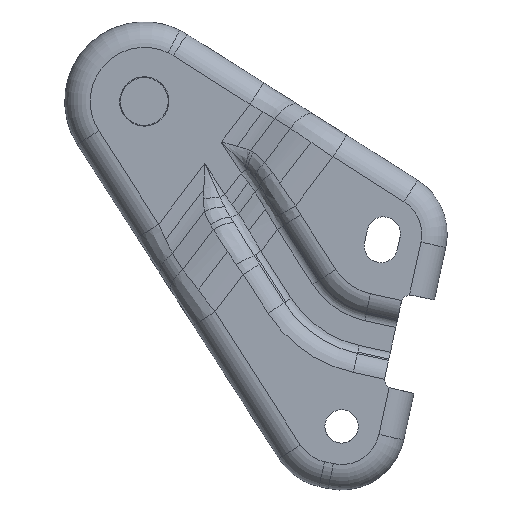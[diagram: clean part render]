
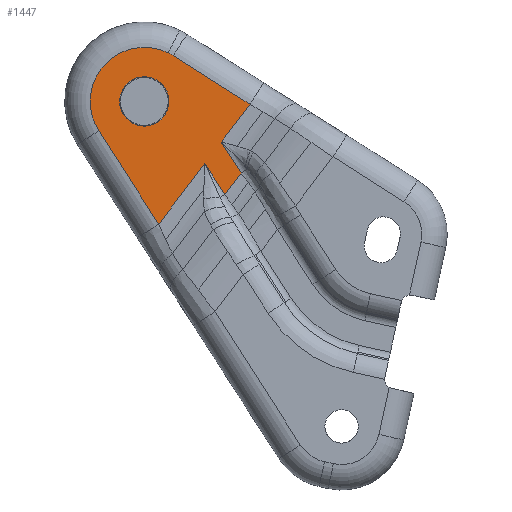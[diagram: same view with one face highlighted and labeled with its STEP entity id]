
A CAD part, front view. The second image highlights one B-rep face of the part: STEP entity #1447.
In plain terms, the highlighted planar face has unit normal (0, -1, 0).
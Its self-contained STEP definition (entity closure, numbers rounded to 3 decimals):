
#756=VECTOR('Line Direction',#755,1.) ;
#772=VECTOR('Line Direction',#771,1.) ;
#1344=VECTOR('Line Direction',#1343,1.) ;
#1351=VECTOR('Line Direction',#1350,1.) ;
#1358=VECTOR('Line Direction',#1357,1.) ;
#1379=VECTOR('Line Direction',#1378,1.) ;
#755=DIRECTION('Vector Direction',(0.559,0.002,-0.829)) ;
#771=DIRECTION('Vector Direction',(-0.588,-0.001,-0.809)) ;
#1338=DIRECTION('Axis2P3D Direction',(-0.003,1.,0.001)) ;
#1339=DIRECTION('Axis2P3D XDirection',(-0.982,-0.003,0.191)) ;
#1343=DIRECTION('Vector Direction',(0.559,0.002,-0.829)) ;
#1350=DIRECTION('Vector Direction',(-0.588,-0.001,-0.809)) ;
#1357=DIRECTION('Vector Direction',(-0.857,-0.003,0.515)) ;
#1364=DIRECTION('Axis2P3D Direction',(-0.003,1.,0.001)) ;
#1371=DIRECTION('Axis2P3D Direction',(-0.003,1.,0.001)) ;
#1378=DIRECTION('Vector Direction',(0.559,0.002,-0.829)) ;
#369=CARTESIAN_POINT('Vertex',(1387.009,-409.092,606.009)) ;
#419=CARTESIAN_POINT('Vertex',(1380.556,-409.117,615.576)) ;
#733=CARTESIAN_POINT('Vertex',(1392.013,-409.082,612.897)) ;
#737=CARTESIAN_POINT('Control Point',(1387.009,-409.092,606.009)) ;
#738=CARTESIAN_POINT('Control Point',(1388.677,-409.089,608.305)) ;
#739=CARTESIAN_POINT('Control Point',(1390.345,-409.086,610.601)) ;
#740=CARTESIAN_POINT('Control Point',(1392.013,-409.082,612.897)) ;
#754=CARTESIAN_POINT('Line Origine',(1390.15,-409.08,601.354)) ;
#770=CARTESIAN_POINT('Line Origine',(1382.045,-409.114,617.626)) ;
#774=CARTESIAN_POINT('Vertex',(1366.507,-409.144,596.237)) ;
#1337=CARTESIAN_POINT('Axis2P3D Location',(1436.834,-408.942,592.945)) ;
#1342=CARTESIAN_POINT('Line Origine',(1388.786,-409.094,617.68)) ;
#1346=CARTESIAN_POINT('Vertex',(1385.56,-409.107,622.463)) ;
#1349=CARTESIAN_POINT('Line Origine',(1389.942,-409.098,628.496)) ;
#1353=CARTESIAN_POINT('Vertex',(1394.324,-409.089,634.528)) ;
#1356=CARTESIAN_POINT('Line Origine',(1382.087,-409.129,641.88)) ;
#1360=CARTESIAN_POINT('Vertex',(1369.85,-409.168,649.232)) ;
#1363=CARTESIAN_POINT('Axis2P3D Location',(1361.095,-409.184,634.66)) ;
#1367=CARTESIAN_POINT('Vertex',(1368.279,-409.173,650.067)) ;
#1370=CARTESIAN_POINT('Axis2P3D Location',(1361.095,-409.184,634.66)) ;
#1374=CARTESIAN_POINT('Vertex',(1347.002,-409.218,625.153)) ;
#1377=CARTESIAN_POINT('Line Origine',(1356.755,-409.181,610.695)) ;
#1394=CARTESIAN_POINT('Control Point',(1353.487,-409.206,636.138)) ;
#1395=CARTESIAN_POINT('Control Point',(1353.643,-409.206,636.941)) ;
#1396=CARTESIAN_POINT('Control Point',(1353.906,-409.206,637.724)) ;
#1397=CARTESIAN_POINT('Control Point',(1354.27,-409.206,638.468)) ;
#1398=CARTESIAN_POINT('Control Point',(1355.187,-409.204,639.84)) ;
#1399=CARTESIAN_POINT('Control Point',(1356.428,-409.201,640.928)) ;
#1400=CARTESIAN_POINT('Control Point',(1357.118,-409.199,641.387)) ;
#1401=CARTESIAN_POINT('Control Point',(1358.601,-409.196,642.111)) ;
#1402=CARTESIAN_POINT('Control Point',(1360.221,-409.191,642.426)) ;
#1403=CARTESIAN_POINT('Control Point',(1361.048,-409.189,642.475)) ;
#1404=CARTESIAN_POINT('Control Point',(1362.694,-409.184,642.353)) ;
#1405=CARTESIAN_POINT('Control Point',(1364.252,-409.179,641.809)) ;
#1406=CARTESIAN_POINT('Control Point',(1364.991,-409.177,641.435)) ;
#1407=CARTESIAN_POINT('Control Point',(1366.352,-409.172,640.501)) ;
#1408=CARTESIAN_POINT('Control Point',(1367.423,-409.169,639.246)) ;
#1409=CARTESIAN_POINT('Control Point',(1367.873,-409.167,638.55)) ;
#1410=CARTESIAN_POINT('Control Point',(1368.561,-409.164,637.094)) ;
#1411=CARTESIAN_POINT('Control Point',(1368.857,-409.162,635.513)) ;
#1412=CARTESIAN_POINT('Control Point',(1368.904,-409.162,634.727)) ;
#1413=CARTESIAN_POINT('Control Point',(1368.851,-409.161,633.945)) ;
#1414=CARTESIAN_POINT('Control Point',(1368.703,-409.161,633.181)) ;
#1415=CARTESIAN_POINT('Vertex',(1368.703,-409.161,633.181)) ;
#1417=CARTESIAN_POINT('Vertex',(1353.487,-409.206,636.138)) ;
#1421=CARTESIAN_POINT('Control Point',(1368.703,-409.161,633.181)) ;
#1422=CARTESIAN_POINT('Control Point',(1368.547,-409.161,632.378)) ;
#1423=CARTESIAN_POINT('Control Point',(1368.285,-409.161,631.596)) ;
#1424=CARTESIAN_POINT('Control Point',(1367.92,-409.162,630.852)) ;
#1425=CARTESIAN_POINT('Control Point',(1367.003,-409.164,629.479)) ;
#1426=CARTESIAN_POINT('Control Point',(1365.762,-409.167,628.391)) ;
#1427=CARTESIAN_POINT('Control Point',(1365.073,-409.168,627.932)) ;
#1428=CARTESIAN_POINT('Control Point',(1363.59,-409.172,627.208)) ;
#1429=CARTESIAN_POINT('Control Point',(1361.969,-409.176,626.894)) ;
#1430=CARTESIAN_POINT('Control Point',(1361.142,-409.179,626.845)) ;
#1431=CARTESIAN_POINT('Control Point',(1359.496,-409.184,626.966)) ;
#1432=CARTESIAN_POINT('Control Point',(1357.938,-409.188,627.51)) ;
#1433=CARTESIAN_POINT('Control Point',(1357.199,-409.191,627.885)) ;
#1434=CARTESIAN_POINT('Control Point',(1355.839,-409.195,628.819)) ;
#1435=CARTESIAN_POINT('Control Point',(1354.767,-409.199,630.074)) ;
#1436=CARTESIAN_POINT('Control Point',(1354.317,-409.201,630.769)) ;
#1437=CARTESIAN_POINT('Control Point',(1353.629,-409.204,632.225)) ;
#1438=CARTESIAN_POINT('Control Point',(1353.333,-409.205,633.806)) ;
#1439=CARTESIAN_POINT('Control Point',(1353.286,-409.206,634.592)) ;
#1440=CARTESIAN_POINT('Control Point',(1353.339,-409.206,635.374)) ;
#1441=CARTESIAN_POINT('Control Point',(1353.487,-409.206,636.138)) ;
#1340=AXIS2_PLACEMENT_3D('Plane Axis2P3D',#1337,#1338,#1339) ;
#1365=AXIS2_PLACEMENT_3D('Circle Axis2P3D',#1363,#1364,$) ;
#1372=AXIS2_PLACEMENT_3D('Circle Axis2P3D',#1370,#1371,$) ;
#1446=FACE_BOUND('',#1443,.T.) ;
#741=EDGE_CURVE('',#370,#734,#736,.T.) ;
#758=EDGE_CURVE('',#420,#370,#757,.T.) ;
#776=EDGE_CURVE('',#420,#775,#773,.T.) ;
#1348=EDGE_CURVE('',#1347,#734,#1345,.T.) ;
#1355=EDGE_CURVE('',#1354,#1347,#1352,.T.) ;
#1362=EDGE_CURVE('',#1361,#1354,#1359,.F.) ;
#1369=EDGE_CURVE('',#1368,#1361,#1366,.T.) ;
#1376=EDGE_CURVE('',#1375,#1368,#1373,.T.) ;
#1381=EDGE_CURVE('',#775,#1375,#1380,.F.) ;
#1419=EDGE_CURVE('',#1416,#1418,#1393,.F.) ;
#1442=EDGE_CURVE('',#1418,#1416,#1420,.F.) ;
#1341=PLANE('Plane',#1340) ;
#1383=ORIENTED_EDGE('',*,*,#758,.T.) ;
#1384=ORIENTED_EDGE('',*,*,#741,.T.) ;
#1385=ORIENTED_EDGE('',*,*,#1348,.F.) ;
#1386=ORIENTED_EDGE('',*,*,#1355,.F.) ;
#1387=ORIENTED_EDGE('',*,*,#1362,.F.) ;
#1388=ORIENTED_EDGE('',*,*,#1369,.F.) ;
#1389=ORIENTED_EDGE('',*,*,#1376,.F.) ;
#1390=ORIENTED_EDGE('',*,*,#1381,.F.) ;
#1391=ORIENTED_EDGE('',*,*,#776,.F.) ;
#1444=ORIENTED_EDGE('',*,*,#1419,.F.) ;
#1445=ORIENTED_EDGE('',*,*,#1442,.F.) ;
#757=LINE('Line',#754,#756) ;
#773=LINE('Line',#770,#772) ;
#1345=LINE('Line',#1342,#1344) ;
#1352=LINE('Line',#1349,#1351) ;
#1359=LINE('Line',#1356,#1358) ;
#1380=LINE('Line',#1377,#1379) ;
#1447=ADVANCED_FACE('\X2\51E04F554F53\X0\.7',(#1392,#1446),#1341,.F.) ;
#1366=CIRCLE('generated circle',#1365,17.) ;
#1373=CIRCLE('generated circle',#1372,17.) ;
#370=VERTEX_POINT('',#369) ;
#420=VERTEX_POINT('',#419) ;
#734=VERTEX_POINT('',#733) ;
#775=VERTEX_POINT('',#774) ;
#1347=VERTEX_POINT('',#1346) ;
#1354=VERTEX_POINT('',#1353) ;
#1361=VERTEX_POINT('',#1360) ;
#1368=VERTEX_POINT('',#1367) ;
#1375=VERTEX_POINT('',#1374) ;
#1416=VERTEX_POINT('',#1415) ;
#1418=VERTEX_POINT('',#1417) ;
#736=B_SPLINE_CURVE_WITH_KNOTS('',3,(#737,#738,#739,#740),.UNSPECIFIED.,.F.,.U.,(4,4),(0.,12.04),.UNSPECIFIED.) ;
#1393=B_SPLINE_CURVE_WITH_KNOTS('',5,(#1394,#1395,#1396,#1397,#1398,#1399,#1400,#1401,#1402,#1403,#1404,#1405,#1406,#1407,#1408,#1409,#1410,#1411,#1412,#1413,#1414),.UNSPECIFIED.,.F.,.U.,(6,3,3,3,3,3,6),(0.,5.802,11.604,17.406,23.208,29.01,34.528),.UNSPECIFIED.) ;
#1420=B_SPLINE_CURVE_WITH_KNOTS('',5,(#1421,#1422,#1423,#1424,#1425,#1426,#1427,#1428,#1429,#1430,#1431,#1432,#1433,#1434,#1435,#1436,#1437,#1438,#1439,#1440,#1441),.UNSPECIFIED.,.F.,.U.,(6,3,3,3,3,3,6),(0.,5.802,11.604,17.406,23.208,29.01,34.528),.UNSPECIFIED.) ;
#1382=EDGE_LOOP('',(#1383,#1384,#1385,#1386,#1387,#1388,#1389,#1390,#1391)) ;
#1443=EDGE_LOOP('',(#1444,#1445)) ;
#1392=FACE_OUTER_BOUND('',#1382,.T.) ;
